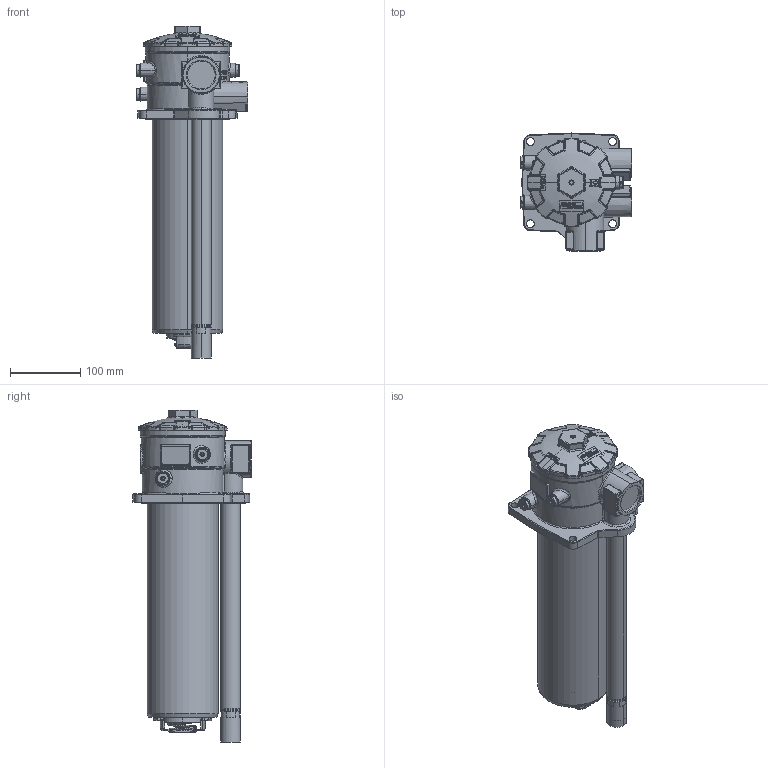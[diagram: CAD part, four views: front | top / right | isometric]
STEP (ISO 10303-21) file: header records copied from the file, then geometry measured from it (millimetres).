
FILE_DESCRIPTION((''),'2;1');
FILE_NAME('1000522613','2024-09-09T16:28:22',('g.topp'),(''),'CREO PARAMETRIC BY PTC INC, 2023254','CREO PARAMETRIC BY PTC INC, 2023254','');
FILE_SCHEMA(('AUTOMOTIVE_DESIGN { 1 0 10303 214 1 1 1 1 }'));
Length unit declared in the file: millimetre
Products named in the file (1): 1000522613
Bounding box: 158.25 x 167.5 x 471 mm (x, y, z)
Volume: 4181641.3 mm3; surface area: 468305.3 mm2
Topology: 1 solids, 11 shells, 2373 faces, 6184 edges, 3864 vertices
Faces by surface type: plane 1005, cylinder 464, bspline 435, torus 218, sphere 114, cone 106, extrusion 31
Entity records: 117565 total; most frequent: CARTESIAN_POINT 44250, ORIENTED_EDGE 12300, DIRECTION 10568, PRESENTATION_STYLE_ASSIGNMENT 6151, STYLED_ITEM 6151, CURVE_STYLE 6150, EDGE_CURVE 6150, AXIS2_PLACEMENT_3D 4261
